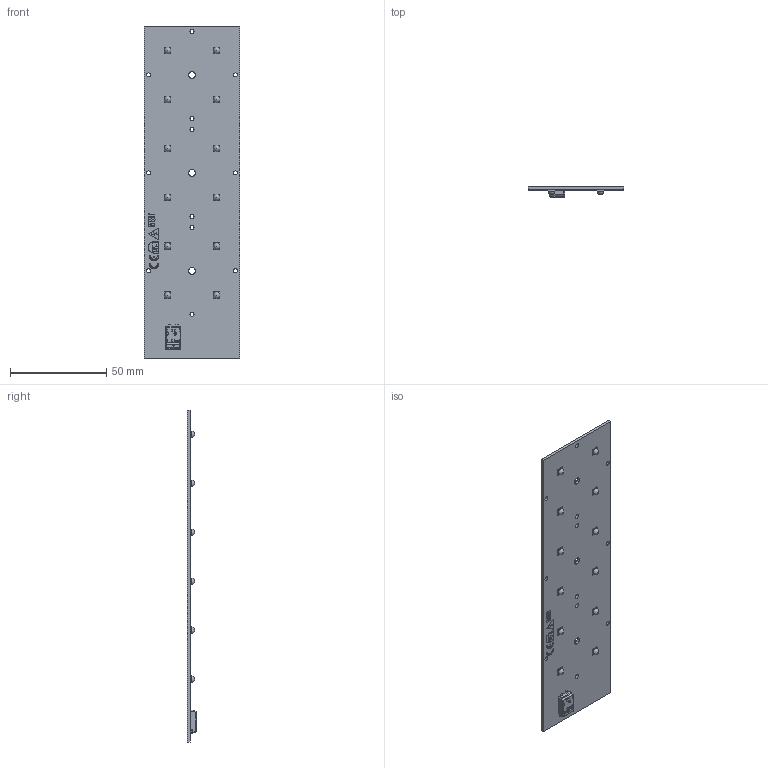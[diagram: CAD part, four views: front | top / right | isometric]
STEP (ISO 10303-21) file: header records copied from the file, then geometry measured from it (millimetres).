
FILE_DESCRIPTION(/* description */ ('Unknown'),/* implementation_level */ '2;1');
FILE_NAME(/* name */ 'RecLED 173x50mm 2900lm 2x6 3535 sh-000 2021-06-25',/* time_stamp */ '2021-06-25T14:02:03+02:00',/* author */ ('Unknown'),/* organization */ ('Unknown'),/* preprocessor_version */ 'ST-DEVELOPER v16.7',/* originating_system */ 'Solid Edge',/* authorisation */ 'Unknown');
FILE_SCHEMA (('AUTOMOTIVE_DESIGN {1 0 10303 214 3 1 1}'));
Length unit declared in the file: millimetre
Products named in the file (1): RecLED 173x50mm 2900lm 2x6 3535 sh-000 2021-06-25
Bounding box: 49.5 x 5 x 172.2 mm (x, y, z)
Volume: 13141.1 mm3; surface area: 18448.5 mm2
Topology: 2 solids, 2 shells, 894 faces, 2419 edges, 1557 vertices
Faces by surface type: plane 554, cylinder 176, bspline 93, cone 26, torus 23, sphere 22
Full cylindrical faces by diameter (mm): 2.1 x12, 3.5 x3
Entity records: 36777 total; most frequent: CARTESIAN_POINT 9108, ORIENTED_EDGE 4650, DIRECTION 3938, EDGE_CURVE 2325, LINE 1540, VECTOR 1540, VERTEX_POINT 1516, AXIS2_PLACEMENT_3D 1199
